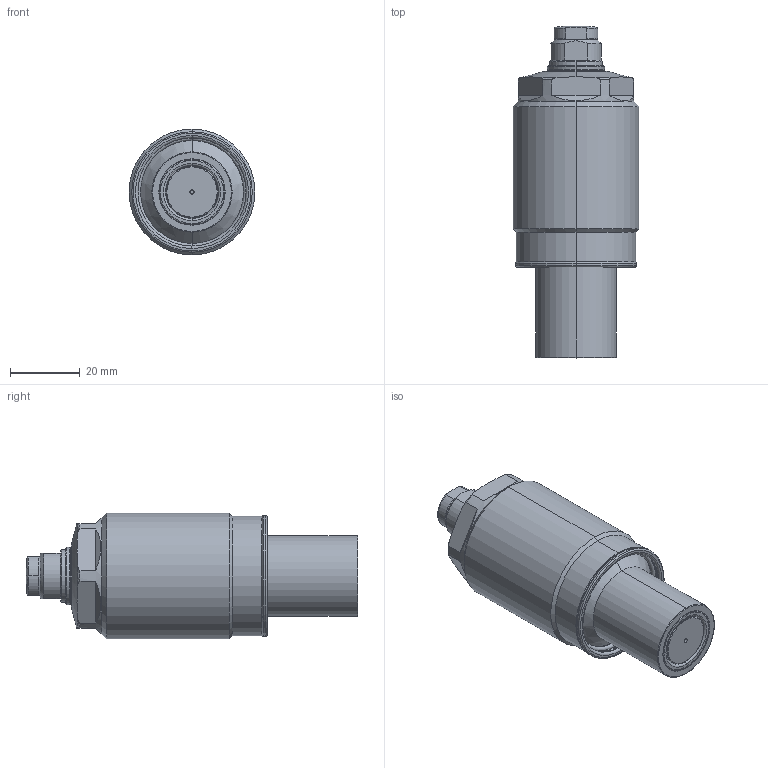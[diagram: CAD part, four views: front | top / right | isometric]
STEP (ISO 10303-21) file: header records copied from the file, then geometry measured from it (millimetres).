
FILE_DESCRIPTION(/* description */ (''),/* implementation_level */ '2;1');
FILE_NAME(/* name */ 'TSC36-Q.stp',/* time_stamp */ '2026-02-04T13:41:57+08:00',/* author */ (''),/* organization */ (''),/* preprocessor_version */ 'ST-DEVELOPER v16.7',/* originating_system */ 'SIEMENS PLM Software NX 12.0',/* authorisation */ '');
FILE_SCHEMA (('AUTOMOTIVE_DESIGN { 1 0 10303 214 3 1 1 1 }'));
Length unit declared in the file: millimetre
Products named in the file (7): XLC-M10_contactbolt10522; XLC-M10_Oring3344; TSC36-Q-01; AS568-026(90); TSC36-Q-02; TSC36-Q-03; LD0363-Q_step
Assembly tree (6 placements, depth 3):
  LD0363-Q_step
    TSC36-Q-03
      XLC-M10_Oring3344
      XLC-M10_contactbolt10522
    TSC36-Q-02
    AS568-026(90)
    TSC36-Q-01
Bounding box: 36 x 95 x 36 mm (x, y, z)
Volume: 65091.9 mm3; surface area: 14469.6 mm2
Topology: 5 solids, 5 shells, 379 faces, 790 edges, 432 vertices
Faces by surface type: cone 230, torus 64, cylinder 45, plane 38, sphere 2
Entity records: 10395 total; most frequent: CARTESIAN_POINT 2010, DIRECTION 1963, ORIENTED_EDGE 1580, AXIS2_PLACEMENT_3D 831, EDGE_CURVE 790, CIRCLE 445, VERTEX_POINT 432, EDGE_LOOP 394
